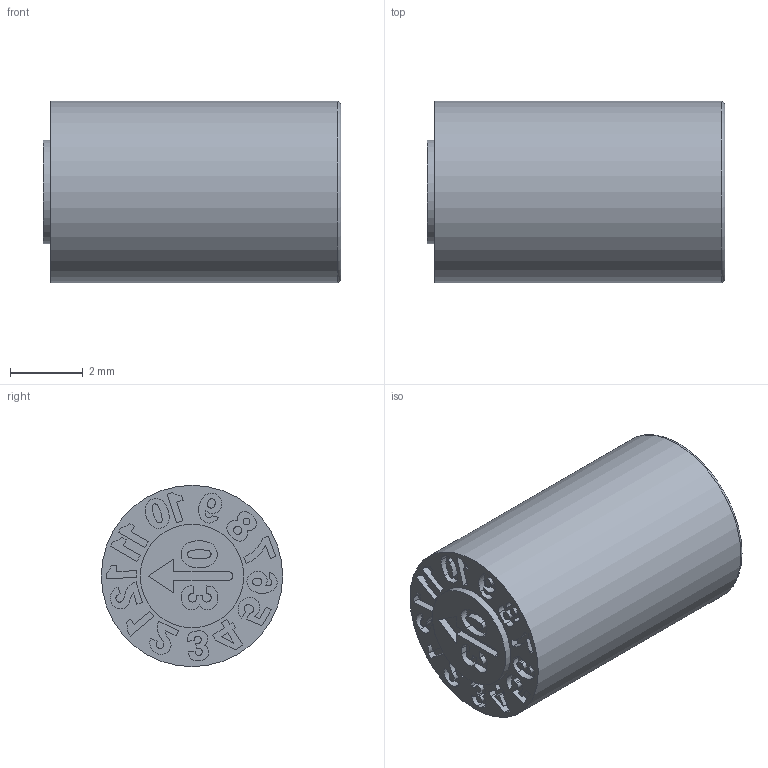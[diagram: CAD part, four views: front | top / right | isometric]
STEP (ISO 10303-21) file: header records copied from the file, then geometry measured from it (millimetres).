
FILE_DESCRIPTION( ( 'STEP AP203' ), ' ' );
FILE_NAME( 'p:/temp/worker_530/1640_2752/app_43_02016031009541184760943192d056f_000000_00_00_000000/format_0/FYM 05_200_(0.2).stp', '2016-03-10T08:54:12', ( '' ), ( '' ), ' ', 'PARTsolutions', ' ' );
FILE_SCHEMA( ( 'CONFIG_CONTROL_DESIGN' ) );
Length unit declared in the file: millimetre
Products named in the file (3): FYM 05/200*(0.2); _FYM 05/200*(0.2)1; _FYM 05/200*(0.2)2
Assembly tree (2 placements, depth 2):
  FYM 05/200*(0.2)
    _FYM 05/200*(0.2)1
    _FYM 05/200*(0.2)2
Bounding box: 8.2 x 5 x 5 mm (x, y, z)
Volume: 132.8 mm3; surface area: 294 mm2
Topology: 2 solids, 2 shells, 222 faces, 569 edges, 378 vertices
Faces by surface type: plane 128, cylinder 90, cone 3, torus 1
Full cylindrical faces by diameter (mm): 0.185 x1, 0.228 x1, 1.383 x1, 1.6 x1, 2.85 x2, 5 x1
Entity records: 6822 total; most frequent: DIRECTION 1192, CARTESIAN_POINT 1161, ORIENTED_EDGE 1116, EDGE_CURVE 558, AXIS2_PLACEMENT_3D 409, VERTEX_POINT 378, LINE 374, VECTOR 374
